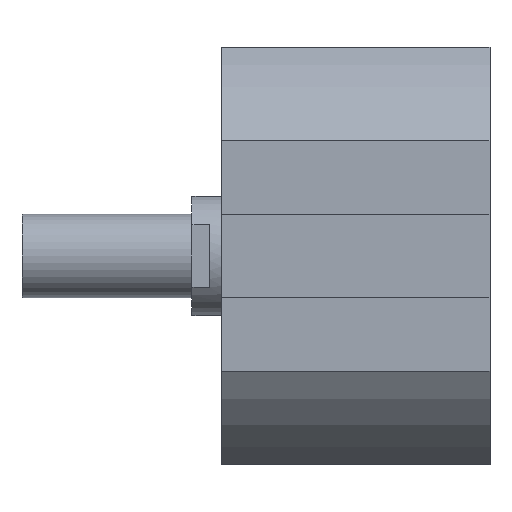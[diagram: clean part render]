
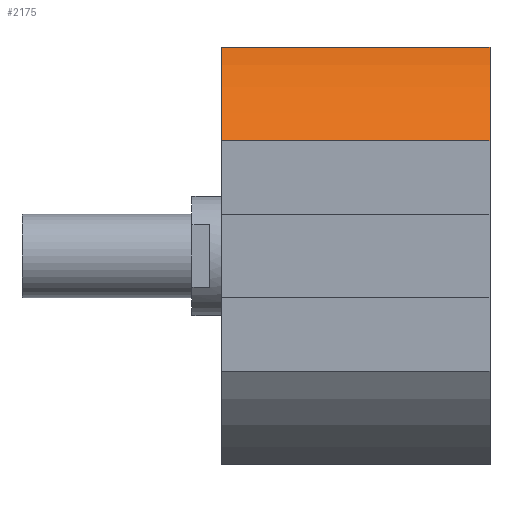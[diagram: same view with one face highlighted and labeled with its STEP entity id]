
A CAD part, left-side view. The second image highlights one B-rep face of the part: STEP entity #2175.
In plain terms, the highlighted cylindrical face has radius 40 mm (diameter 80 mm), a partial arc.
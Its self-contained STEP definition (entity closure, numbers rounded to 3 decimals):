
#75 = AXIS2_PLACEMENT_3D ( 'NONE', #2586, #2854, #174 ) ;
#147 = DIRECTION ( 'NONE',  ( 0., 1., 0. ) ) ;
#174 = DIRECTION ( 'NONE',  ( 0., 0., 1. ) ) ;
#181 = CARTESIAN_POINT ( 'NONE',  ( -35., -45., 19.365 ) ) ;
#257 = FACE_OUTER_BOUND ( 'NONE', #1536, .T. ) ;
#262 = DIRECTION ( 'NONE',  ( 0., 0., 1. ) ) ;
#332 = AXIS2_PLACEMENT_3D ( 'NONE', #508, #3185, #262 ) ;
#423 = DIRECTION ( 'NONE',  ( 0., 0., 1. ) ) ;
#508 = CARTESIAN_POINT ( 'NONE',  ( 0., -45., 0. ) ) ;
#727 = ORIENTED_EDGE ( 'NONE', *, *, #1905, .F. ) ;
#776 = CARTESIAN_POINT ( 'NONE',  ( -19.365, 0., 35. ) ) ;
#886 = CARTESIAN_POINT ( 'NONE',  ( -35., -45., 19.365 ) ) ;
#893 = CARTESIAN_POINT ( 'NONE',  ( -35., 0., 19.365 ) ) ;
#906 = VECTOR ( 'NONE', #147, 1000. ) ;
#987 = CYLINDRICAL_SURFACE ( 'NONE', #332, 40. ) ;
#1157 = AXIS2_PLACEMENT_3D ( 'NONE', #1470, #2023, #423 ) ;
#1183 = VERTEX_POINT ( 'NONE', #893 ) ;
#1207 = LINE ( 'NONE', #2037, #906 ) ;
#1359 = CARTESIAN_POINT ( 'NONE',  ( -19.365, -45., 35. ) ) ;
#1470 = CARTESIAN_POINT ( 'NONE',  ( 0., -45., 0. ) ) ;
#1536 = EDGE_LOOP ( 'NONE', ( #1852, #727, #2866, #2642 ) ) ;
#1852 = ORIENTED_EDGE ( 'NONE', *, *, #2595, .F. ) ;
#1905 = EDGE_CURVE ( 'NONE', #1971, #1183, #2085, .T. ) ;
#1922 = EDGE_CURVE ( 'NONE', #2155, #2317, #1207, .T. ) ;
#1971 = VERTEX_POINT ( 'NONE', #181 ) ;
#2008 = EDGE_CURVE ( 'NONE', #1971, #2155, #3210, .T. ) ;
#2023 = DIRECTION ( 'NONE',  ( 0., 1., 0. ) ) ;
#2037 = CARTESIAN_POINT ( 'NONE',  ( -19.365, -45., 35. ) ) ;
#2085 = LINE ( 'NONE', #886, #2884 ) ;
#2155 = VERTEX_POINT ( 'NONE', #1359 ) ;
#2175 = ADVANCED_FACE ( 'NONE', ( #257 ), #987, .T. ) ;
#2317 = VERTEX_POINT ( 'NONE', #776 ) ;
#2518 = DIRECTION ( 'NONE',  ( 0., 1., 0. ) ) ;
#2586 = CARTESIAN_POINT ( 'NONE',  ( 0., 0., 0. ) ) ;
#2595 = EDGE_CURVE ( 'NONE', #1183, #2317, #3357, .T. ) ;
#2642 = ORIENTED_EDGE ( 'NONE', *, *, #1922, .T. ) ;
#2854 = DIRECTION ( 'NONE',  ( 0., 1., 0. ) ) ;
#2866 = ORIENTED_EDGE ( 'NONE', *, *, #2008, .T. ) ;
#2884 = VECTOR ( 'NONE', #2518, 1000. ) ;
#3185 = DIRECTION ( 'NONE',  ( 0., 1., 0. ) ) ;
#3210 = CIRCLE ( 'NONE', #1157, 40. ) ;
#3357 = CIRCLE ( 'NONE', #75, 40. ) ;
